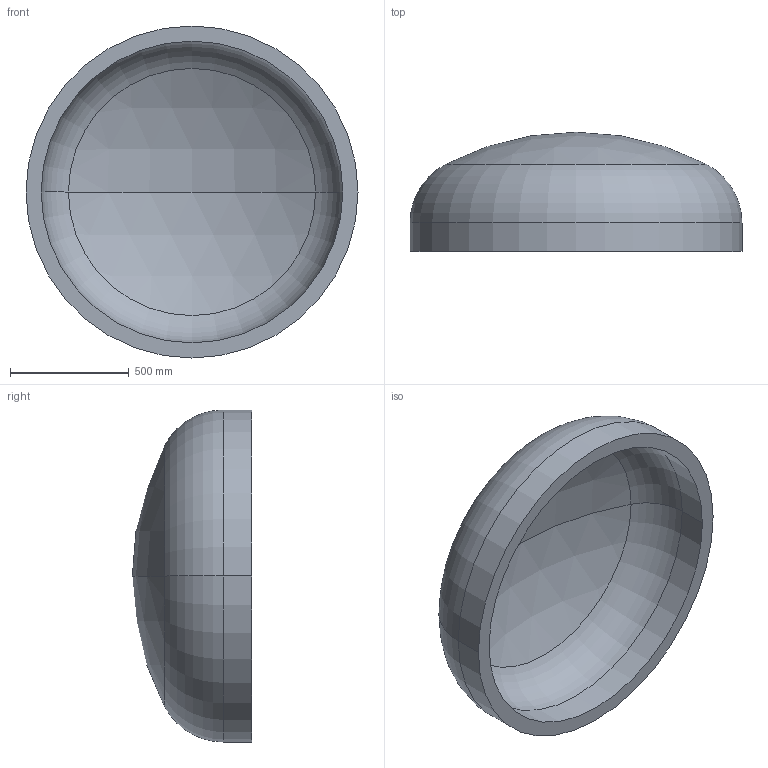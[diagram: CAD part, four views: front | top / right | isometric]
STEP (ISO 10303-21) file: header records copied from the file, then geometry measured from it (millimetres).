
FILE_DESCRIPTION (( 'STEP AP203' ), '1' );
FILE_NAME ('DIN 28013 Korbbogenform_-_Boden DIN 28013 - 1400 x 120 - I - s=64.step', '2016-07-01T10:23:11', ( '' ), ( '' ), 'SwSTEP 2.0', 'SolidWorks 2013', '' );
FILE_SCHEMA (( 'CONFIG_CONTROL_DESIGN' ));
Length unit declared in the file: millimetre
Products named in the file (1): DIN 28013 Korbbogenform_-_Boden DIN 28013 - 1400 x 120 - I - s=64
Bounding box: 1400 x 502.89 x 1400 mm (x, y, z)
Volume: 160799029.6 mm3; surface area: 5302165.8 mm2
Topology: 1 solids, 1 shells, 13 faces, 24 edges, 14 vertices
Faces by surface type: torus 4, cylinder 4, sphere 4, plane 1
Entity records: 407 total; most frequent: DIRECTION 72, CARTESIAN_POINT 52, ORIENTED_EDGE 48, AXIS2_PLACEMENT_3D 34, EDGE_CURVE 24, CIRCLE 20, VERTEX_POINT 14, EDGE_LOOP 14
